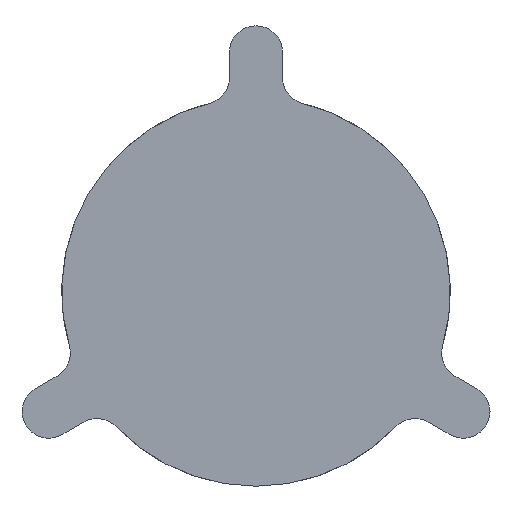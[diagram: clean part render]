
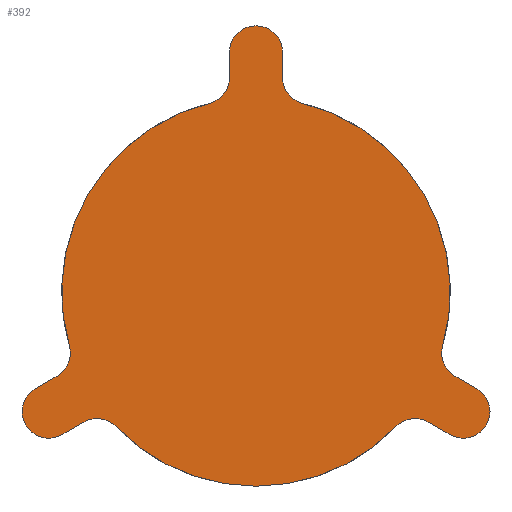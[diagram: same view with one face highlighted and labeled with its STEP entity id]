
A CAD part, front view. The second image highlights one B-rep face of the part: STEP entity #392.
In plain terms, the highlighted planar face has unit normal (0, -1, 0).
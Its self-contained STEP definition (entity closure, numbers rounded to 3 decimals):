
#16=PLANE('',#439);
#31=FACE_OUTER_BOUND('',#53,.T.);
#53=EDGE_LOOP('',(#285,#286,#287,#288,#289,#290,#291,#292,#293,#294,#295,
#296,#297,#298,#299,#300,#301,#302));
#81=LINE('',#652,#113);
#82=LINE('',#654,#114);
#83=LINE('',#659,#115);
#84=LINE('',#663,#116);
#85=LINE('',#668,#117);
#86=LINE('',#672,#118);
#113=VECTOR('',#517,10.);
#114=VECTOR('',#518,10.);
#115=VECTOR('',#523,10.);
#116=VECTOR('',#526,10.);
#117=VECTOR('',#531,10.);
#118=VECTOR('',#534,10.);
#135=CIRCLE('',#425,0.5);
#139=CIRCLE('',#431,3.65);
#141=CIRCLE('',#433,3.65);
#144=CIRCLE('',#436,3.65);
#146=CIRCLE('',#440,0.5);
#147=CIRCLE('',#441,0.5);
#148=CIRCLE('',#442,0.5);
#149=CIRCLE('',#443,0.5);
#150=CIRCLE('',#444,0.5);
#151=CIRCLE('',#445,0.5);
#152=CIRCLE('',#446,0.5);
#153=CIRCLE('',#447,0.5);
#162=VERTEX_POINT('',#607);
#163=VERTEX_POINT('',#608);
#168=VERTEX_POINT('',#622);
#169=VERTEX_POINT('',#623);
#172=VERTEX_POINT('',#629);
#173=VERTEX_POINT('',#631);
#177=VERTEX_POINT('',#640);
#178=VERTEX_POINT('',#642);
#181=VERTEX_POINT('',#651);
#182=VERTEX_POINT('',#653);
#183=VERTEX_POINT('',#656);
#184=VERTEX_POINT('',#658);
#185=VERTEX_POINT('',#660);
#186=VERTEX_POINT('',#662);
#187=VERTEX_POINT('',#665);
#188=VERTEX_POINT('',#667);
#189=VERTEX_POINT('',#669);
#190=VERTEX_POINT('',#671);
#201=EDGE_CURVE('',#162,#163,#135,.F.);
#208=EDGE_CURVE('',#168,#169,#139,.T.);
#212=EDGE_CURVE('',#172,#173,#141,.T.);
#218=EDGE_CURVE('',#177,#178,#144,.T.);
#222=EDGE_CURVE('',#181,#162,#81,.F.);
#223=EDGE_CURVE('',#163,#182,#82,.F.);
#224=EDGE_CURVE('',#182,#173,#146,.T.);
#225=EDGE_CURVE('',#172,#183,#147,.T.);
#226=EDGE_CURVE('',#183,#184,#83,.F.);
#227=EDGE_CURVE('',#184,#185,#148,.F.);
#228=EDGE_CURVE('',#185,#186,#84,.F.);
#229=EDGE_CURVE('',#186,#169,#149,.T.);
#230=EDGE_CURVE('',#168,#187,#150,.T.);
#231=EDGE_CURVE('',#187,#188,#85,.F.);
#232=EDGE_CURVE('',#188,#189,#151,.F.);
#233=EDGE_CURVE('',#189,#190,#86,.F.);
#234=EDGE_CURVE('',#190,#178,#152,.T.);
#235=EDGE_CURVE('',#177,#181,#153,.T.);
#285=ORIENTED_EDGE('',*,*,#222,.T.);
#286=ORIENTED_EDGE('',*,*,#201,.T.);
#287=ORIENTED_EDGE('',*,*,#223,.T.);
#288=ORIENTED_EDGE('',*,*,#224,.T.);
#289=ORIENTED_EDGE('',*,*,#212,.F.);
#290=ORIENTED_EDGE('',*,*,#225,.T.);
#291=ORIENTED_EDGE('',*,*,#226,.T.);
#292=ORIENTED_EDGE('',*,*,#227,.T.);
#293=ORIENTED_EDGE('',*,*,#228,.T.);
#294=ORIENTED_EDGE('',*,*,#229,.T.);
#295=ORIENTED_EDGE('',*,*,#208,.F.);
#296=ORIENTED_EDGE('',*,*,#230,.T.);
#297=ORIENTED_EDGE('',*,*,#231,.T.);
#298=ORIENTED_EDGE('',*,*,#232,.T.);
#299=ORIENTED_EDGE('',*,*,#233,.T.);
#300=ORIENTED_EDGE('',*,*,#234,.T.);
#301=ORIENTED_EDGE('',*,*,#218,.F.);
#302=ORIENTED_EDGE('',*,*,#235,.T.);
#392=ADVANCED_FACE('',(#31),#16,.F.);
#425=AXIS2_PLACEMENT_3D('',#609,#477,#478);
#431=AXIS2_PLACEMENT_3D('',#624,#492,#493);
#433=AXIS2_PLACEMENT_3D('',#632,#498,#499);
#436=AXIS2_PLACEMENT_3D('',#643,#507,#508);
#439=AXIS2_PLACEMENT_3D('',#650,#515,#516);
#440=AXIS2_PLACEMENT_3D('',#655,#519,#520);
#441=AXIS2_PLACEMENT_3D('',#657,#521,#522);
#442=AXIS2_PLACEMENT_3D('',#661,#524,#525);
#443=AXIS2_PLACEMENT_3D('',#664,#527,#528);
#444=AXIS2_PLACEMENT_3D('',#666,#529,#530);
#445=AXIS2_PLACEMENT_3D('',#670,#532,#533);
#446=AXIS2_PLACEMENT_3D('',#673,#535,#536);
#447=AXIS2_PLACEMENT_3D('',#674,#537,#538);
#477=DIRECTION('center_axis',(0.,1.,0.));
#478=DIRECTION('ref_axis',(0.,0.,1.));
#492=DIRECTION('center_axis',(0.,1.,0.));
#493=DIRECTION('ref_axis',(0.,0.,-1.));
#498=DIRECTION('center_axis',(0.,1.,0.));
#499=DIRECTION('ref_axis',(0.,0.,-1.));
#507=DIRECTION('center_axis',(0.,1.,0.));
#508=DIRECTION('ref_axis',(0.,0.,-1.));
#515=DIRECTION('center_axis',(0.,1.,0.));
#516=DIRECTION('ref_axis',(0.,0.,1.));
#517=DIRECTION('',(0.,0.,-1.));
#518=DIRECTION('',(0.,0.,1.));
#519=DIRECTION('center_axis',(0.,1.,0.));
#520=DIRECTION('ref_axis',(0.,0.,-1.));
#521=DIRECTION('center_axis',(0.,1.,0.));
#522=DIRECTION('ref_axis',(0.,0.,-1.));
#523=DIRECTION('',(0.866,0.,0.5));
#524=DIRECTION('center_axis',(0.,1.,0.));
#525=DIRECTION('ref_axis',(0.,0.,1.));
#526=DIRECTION('',(-0.866,0.,-0.5));
#527=DIRECTION('center_axis',(0.,1.,0.));
#528=DIRECTION('ref_axis',(0.,0.,-1.));
#529=DIRECTION('center_axis',(0.,1.,0.));
#530=DIRECTION('ref_axis',(0.,0.,-1.));
#531=DIRECTION('',(-0.866,0.,0.5));
#532=DIRECTION('center_axis',(0.,1.,0.));
#533=DIRECTION('ref_axis',(0.,0.,1.));
#534=DIRECTION('',(0.866,0.,-0.5));
#535=DIRECTION('center_axis',(0.,1.,0.));
#536=DIRECTION('ref_axis',(0.,0.,-1.));
#537=DIRECTION('center_axis',(0.,1.,0.));
#538=DIRECTION('ref_axis',(0.,0.,-1.));
#607=CARTESIAN_POINT('',(0.5,0.,4.5));
#608=CARTESIAN_POINT('',(-0.5,0.,4.5));
#609=CARTESIAN_POINT('Origin',(0.,0.,
4.5));
#622=CARTESIAN_POINT('',(2.628,0.,-2.533));
#623=CARTESIAN_POINT('',(-2.628,0.,-2.533));
#624=CARTESIAN_POINT('Origin',(0.,0.,0.));
#629=CARTESIAN_POINT('',(-3.508,0.,-1.01));
#631=CARTESIAN_POINT('',(-0.88,0.,3.542));
#632=CARTESIAN_POINT('Origin',(0.,0.,0.));
#640=CARTESIAN_POINT('',(0.88,0.,3.542));
#642=CARTESIAN_POINT('',(3.508,0.,-1.01));
#643=CARTESIAN_POINT('Origin',(0.,0.,0.));
#650=CARTESIAN_POINT('Origin',(0.,0.,0.));
#651=CARTESIAN_POINT('',(0.5,0.,4.028));
#652=CARTESIAN_POINT('',(0.5,0.,2.25));
#653=CARTESIAN_POINT('',(-0.5,0.,4.028));
#654=CARTESIAN_POINT('',(-0.5,0.,2.25));
#655=CARTESIAN_POINT('Origin',(-1.,0.,4.028));
#656=CARTESIAN_POINT('',(-3.738,0.,-1.581));
#657=CARTESIAN_POINT('Origin',(-3.988,0.,
-1.148));
#658=CARTESIAN_POINT('',(-4.147,0.,-1.817));
#659=CARTESIAN_POINT('',(-2.199,0.,-0.692));
#660=CARTESIAN_POINT('',(-3.647,0.,-2.683));
#661=CARTESIAN_POINT('Origin',(-3.897,0.,-2.25));
#662=CARTESIAN_POINT('',(-3.238,0.,-2.447));
#663=CARTESIAN_POINT('',(-1.699,0.,-1.558));
#664=CARTESIAN_POINT('Origin',(-2.988,0.,
-2.88));
#665=CARTESIAN_POINT('',(3.238,0.,-2.447));
#666=CARTESIAN_POINT('Origin',(2.988,0.,-2.88));
#667=CARTESIAN_POINT('',(3.647,0.,-2.683));
#668=CARTESIAN_POINT('',(1.699,0.,-1.558));
#669=CARTESIAN_POINT('',(4.147,0.,-1.817));
#670=CARTESIAN_POINT('Origin',(3.897,0.,-2.25));
#671=CARTESIAN_POINT('',(3.738,0.,-1.581));
#672=CARTESIAN_POINT('',(2.199,0.,-0.692));
#673=CARTESIAN_POINT('Origin',(3.988,0.,-1.148));
#674=CARTESIAN_POINT('Origin',(1.,0.,
4.028));
